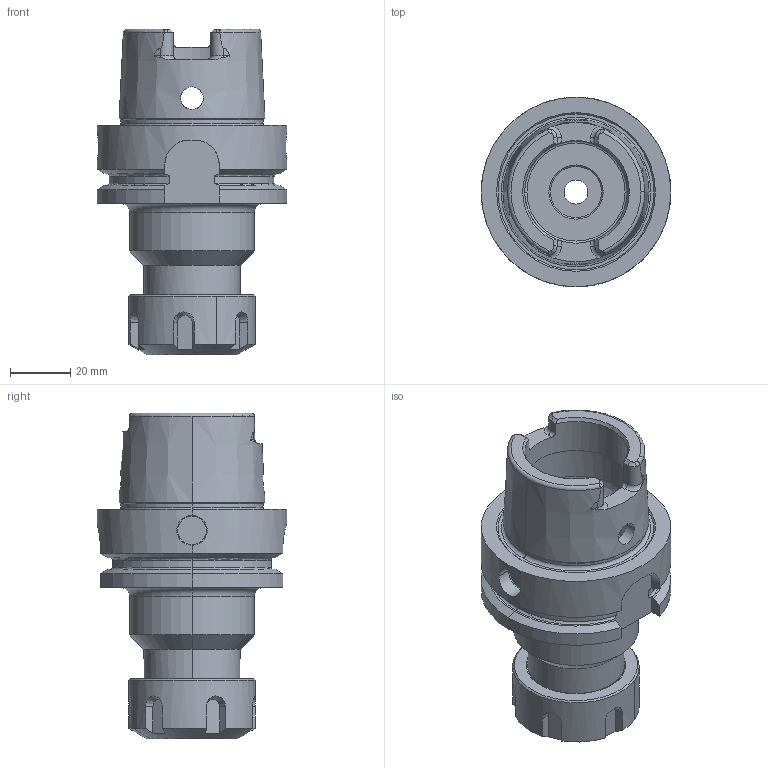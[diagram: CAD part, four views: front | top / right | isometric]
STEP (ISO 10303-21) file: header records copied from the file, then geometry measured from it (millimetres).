
FILE_DESCRIPTION (( 'STEP AP214' ), '1' );
FILE_NAME ('RHSK63AER25300.STEP', '2019-02-05T19:55:46', ( '' ), ( '' ), 'SwSTEP 2.0', 'SolidWorks 2019', '' );
FILE_SCHEMA (( 'AUTOMOTIVE_DESIGN' ));
Length unit declared in the file: inch
Products named in the file (1): RHSK63AER25300
Bounding box: 62.94 x 62.94 x 108.1 mm (x, y, z)
Volume: 121134.3 mm3; surface area: 33732 mm2
Topology: 1 solids, 1 shells, 413 faces, 1074 edges, 692 vertices
Faces by surface type: plane 232, cylinder 60, cone 51, bspline 37, torus 33
Entity records: 21070 total; most frequent: CARTESIAN_POINT 5821, ORIENTED_EDGE 2148, DIRECTION 1869, EDGE_CURVE 1074, VERTEX_POINT 692, LINE 661, VECTOR 661, AXIS2_PLACEMENT_3D 604
